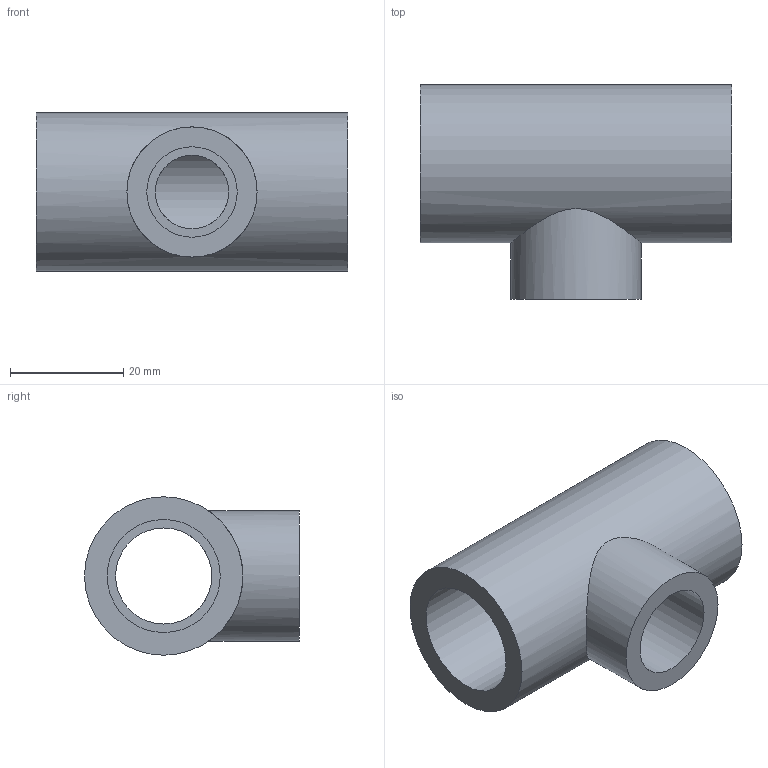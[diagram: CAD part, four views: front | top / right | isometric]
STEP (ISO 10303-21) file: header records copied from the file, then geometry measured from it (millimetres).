
FILE_DESCRIPTION(/* description */ ('PVC ti a 90° ridotto incollaggio metrico'),/* implementation_level */ '2;1');
FILE_NAME(/* name */ 'C:\Users\POLYPIPE\Desktop\DATASET INVENTOR\LIBRERIA EFFAST\RACCORDI 3DxWEB\RDR\3D_RDRTRD\3D_RDRTRD020A.stp',/* time_stamp */ '2018-01-19T15:45:02+01:00',/* author */ ('POLYPIPE'),/* organization */ ('Polypipe Italia s.r.l.'),/* preprocessor_version */ 'ST-DEVELOPER v16.1',/* originating_system */ 'Autodesk Inventor 2016',/* authorisation */ '');
FILE_SCHEMA (('CONFIG_CONTROL_DESIGN'));
Length unit declared in the file: millimetre
Products named in the file (1): 3D_RDRTRD
Bounding box: 55 x 38 x 28 mm (x, y, z)
Volume: 20257.2 mm3; surface area: 10265.9 mm2
Topology: 1 solids, 1 shells, 13 faces, 23 edges, 16 vertices
Faces by surface type: cylinder 7, plane 6
Full cylindrical faces by diameter (mm): 13 x1, 16 x1, 17 x1, 20 x2, 23 x1, 28 x1
Entity records: 390 total; most frequent: CARTESIAN_POINT 132, DIRECTION 52, EDGE_LOOP 28, ORIENTED_EDGE 28, AXIS2_PLACEMENT_3D 26, FACE_BOUND 15, VERTEX_POINT 14, EDGE_CURVE 14
